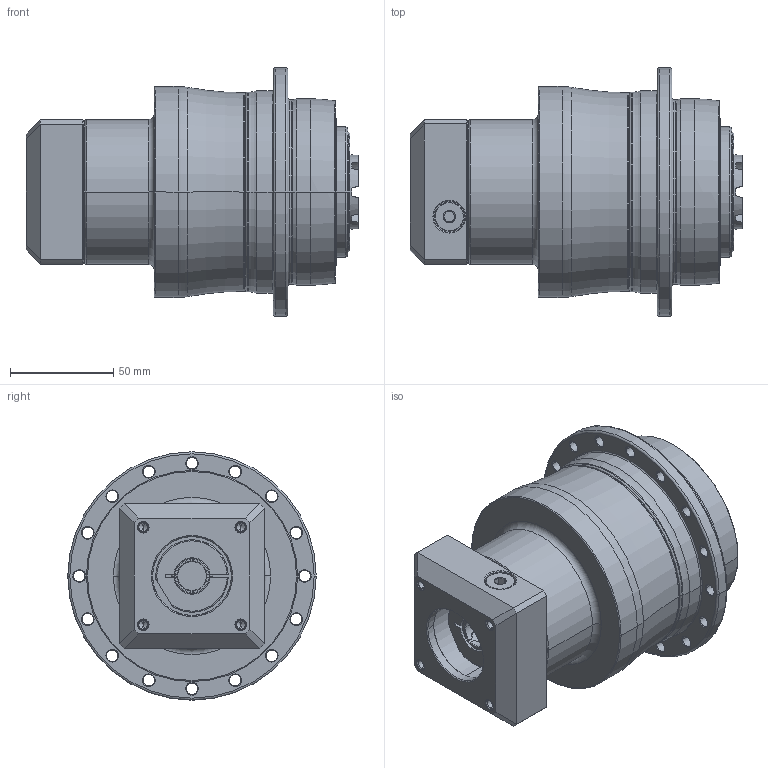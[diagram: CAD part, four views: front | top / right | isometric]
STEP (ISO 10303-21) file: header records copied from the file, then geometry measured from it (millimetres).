
FILE_DESCRIPTION((''),'2;1');
FILE_NAME('APC090_3ST_14-P0409300201_ASM','2018-10-23T',('d01226'),(''),'PRO/ENGINEER BY PARAMETRIC TECHNOLOGY CORPORATION, 2015240','PRO/ENGINEER BY PARAMETRIC TECHNOLOGY CORPORATION, 2015240','');
FILE_SCHEMA(('CONFIG_CONTROL_DESIGN'));
Length unit declared in the file: millimetre
Products named in the file (9): P0278301003; P0359330103; P1366300201; P0503300005; P0912102001; P1211300001; P0409300201; 21711410012; APC090_3ST_14-P0409300201_ASM
Assembly tree (8 placements, depth 2):
  APC090_3ST_14-P0409300201_ASM
    P0278301003
    P0359330103
    P1366300201
    P0503300005
    P0912102001
    P1211300001
    P0409300201
    21711410012
Bounding box: 160.4 x 120 x 120 mm (x, y, z)
Volume: 802701.6 mm3; surface area: 139260.1 mm2
Topology: 9 solids, 19 shells, 581 faces, 1379 edges, 839 vertices
Faces by surface type: cylinder 204, cone 174, plane 119, torus 70, bspline 14
Entity records: 21503 total; most frequent: CARTESIAN_POINT 7603, DIRECTION 3135, ORIENTED_EDGE 2688, EDGE_CURVE 1365, AXIS2_PLACEMENT_3D 1335, VERTEX_POINT 839, CIRCLE 741, EDGE_LOOP 666
